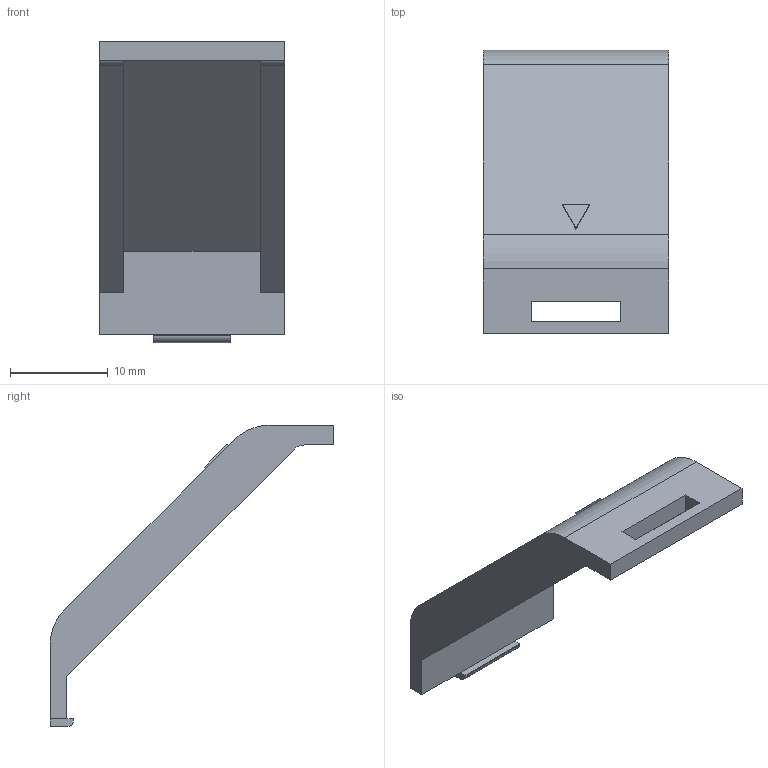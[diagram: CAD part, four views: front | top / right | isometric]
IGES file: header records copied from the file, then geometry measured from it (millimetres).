
Start section: SolidWorks IGES file using analytic representation for surfaces
Global section: file name: C:\Documents and Settings\Administrator\デスクトップ\指定保存後5回目\SolidWorks\SF\SF30\Parts\SFA-J13.IGS; native system: SolidWorks 2006 by SolidWorks Corporation; preprocessor: SolidWorks 2006 by SolidWorks Corporation; author: Administrator; date: 061219.100747; units: millimetre
Bounding box: 19 x 29 x 30.8 mm (x, y, z)
Volume: 2092.9 mm3; surface area: 2354.1 mm2
Topology: 1 solids, 1 shells, 34 faces, 90 edges, 59 vertices
Faces by surface type: plane 29, revolution 5
